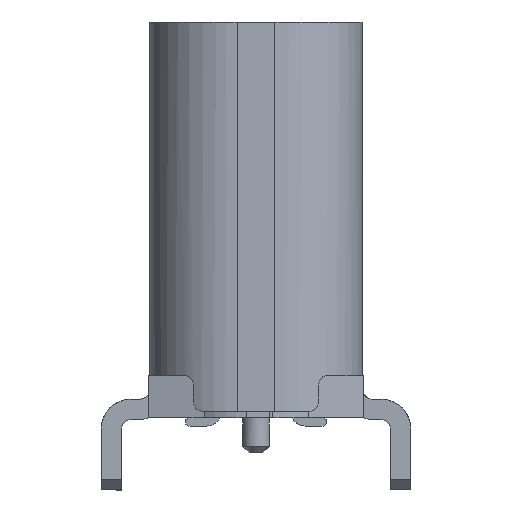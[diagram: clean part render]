
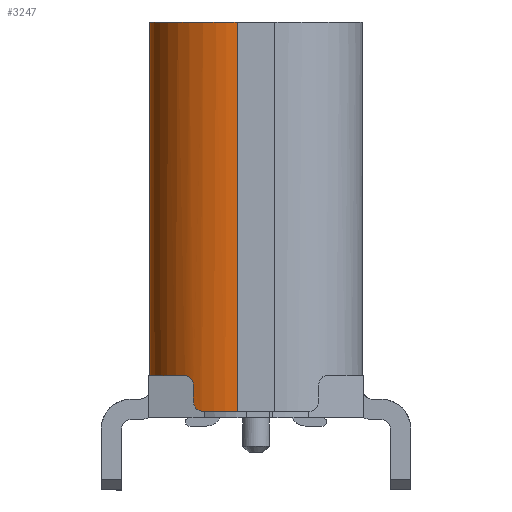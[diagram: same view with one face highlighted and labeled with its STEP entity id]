
A CAD part, left-side view. The second image highlights one B-rep face of the part: STEP entity #3247.
In plain terms, the highlighted cylindrical face has radius 1.3 mm (diameter 2.6 mm), a partial arc.
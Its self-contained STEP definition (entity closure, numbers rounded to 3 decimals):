
#221 = CARTESIAN_POINT ( 'NONE',  ( -98.817, -10.848, -1.001 ) ) ;
#636 = CARTESIAN_POINT ( 'NONE',  ( -98.991, -11.498, -11.903 ) ) ;
#647 = CARTESIAN_POINT ( 'NONE',  ( -97.691, -10.198, -0.621 ) ) ;
#998 = CARTESIAN_POINT ( 'NONE',  ( -98.885, -10.982, -1.151 ) ) ;
#1045 = FACE_OUTER_BOUND ( 'NONE', #14088, .T. ) ;
#1053 = VERTEX_POINT ( 'NONE', #24710 ) ;
#1527 = VERTEX_POINT ( 'NONE', #28893 ) ;
#3247 = ADVANCED_FACE ( 'NONE', ( #1045 ), #33800, .T. ) ;
#3356 = EDGE_CURVE ( 'NONE', #1053, #33666, #11077, .T. ) ;
#3518 = CARTESIAN_POINT ( 'NONE',  ( -97.911, -10.198, -0.621 ) ) ;
#3638 = B_SPLINE_CURVE_WITH_KNOTS ( 'NONE', 3,
 ( #23109, #7354, #25779, #26488, #9511, #12368, #18414, #12709, #18065, #34708, #7166, #17895, #25958, #4473, #15393, #12211, #34535, #3941, #28653, #15050, #9693 ),
 .UNSPECIFIED., .F., .F.,
 ( 4, 1, 1, 2, 2, 1, 2, 2, 1, 1, 2, 2, 4 ),
 ( 0., 0.125, 0.187, 0.219, 0.25, 0.375, 0.437, 0.5, 0.625, 0.687, 0.719, 0.75, 1. ),
 .UNSPECIFIED. ) ;
#3717 = ORIENTED_EDGE ( 'NONE', *, *, #3356, .T. ) ;
#3941 = CARTESIAN_POINT ( 'NONE',  ( -98.892, -11., 4.629 ) ) ;
#4230 = ORIENTED_EDGE ( 'NONE', *, *, #29581, .T. ) ;
#4473 = CARTESIAN_POINT ( 'NONE',  ( -98.756, -10.743, 4.629 ) ) ;
#4565 = CARTESIAN_POINT ( 'NONE',  ( -98.817, -10.848, -0.771 ) ) ;
#5216 = VECTOR ( 'NONE', #20714, 1000. ) ;
#6417 = VERTEX_POINT ( 'NONE', #32484 ) ;
#6953 = LINE ( 'NONE', #17849, #5216 ) ;
#7166 = CARTESIAN_POINT ( 'NONE',  ( -98.545, -10.517, 4.629 ) ) ;
#7354 = CARTESIAN_POINT ( 'NONE',  ( -97.773, -10.198, 4.629 ) ) ;
#7547 = B_SPLINE_CURVE_WITH_KNOTS ( 'NONE', 3,
 ( #31724, #17781, #9926, #28704 ),
 .UNSPECIFIED., .F., .F.,
 ( 4, 4 ),
 ( 0., 1. ),
 .UNSPECIFIED. ) ;
#7693 = ORIENTED_EDGE ( 'NONE', *, *, #17856, .T. ) ;
#8486 = EDGE_CURVE ( 'NONE', #6417, #26614, #3638, .T. ) ;
#8775 = EDGE_CURVE ( 'NONE', #14503, #26614, #30700, .T. ) ;
#8837 = AXIS2_PLACEMENT_3D ( 'NONE', #15700, #13030, #24306 ) ;
#9511 = CARTESIAN_POINT ( 'NONE',  ( -98.092, -10.261, 4.629 ) ) ;
#9693 = CARTESIAN_POINT ( 'NONE',  ( -98.991, -11.498, 4.629 ) ) ;
#9841 = EDGE_CURVE ( 'NONE', #1053, #6417, #10261, .T. ) ;
#9926 = CARTESIAN_POINT ( 'NONE',  ( -98.991, -11.321, -1.151 ) ) ;
#10261 = LINE ( 'NONE', #21154, #20121 ) ;
#10559 = B_SPLINE_CURVE_WITH_KNOTS ( 'NONE', 3,
 ( #33066, #33418, #32735, #14279 ),
 .UNSPECIFIED., .F., .F.,
 ( 4, 4 ),
 ( 0., 1. ),
 .UNSPECIFIED. ) ;
#10943 = B_SPLINE_CURVE_WITH_KNOTS ( 'NONE', 3,
 ( #33472, #11667, #32942, #14338, #19678, #33119 ),
 .UNSPECIFIED., .F., .F.,
 ( 4, 2, 4 ),
 ( 0., 0.5, 1. ),
 .UNSPECIFIED. ) ;
#11077 = B_SPLINE_CURVE_WITH_KNOTS ( 'NONE', 3,
 ( #647, #3518, #32867, #19244 ),
 .UNSPECIFIED., .F., .F.,
 ( 4, 4 ),
 ( 0., 1. ),
 .UNSPECIFIED. ) ;
#11667 = CARTESIAN_POINT ( 'NONE',  ( -98.759, -10.756, -0.621 ) ) ;
#11727 = ORIENTED_EDGE ( 'NONE', *, *, #27663, .T. ) ;
#11969 = VECTOR ( 'NONE', #33383, 1000. ) ;
#12042 = ORIENTED_EDGE ( 'NONE', *, *, #8486, .F. ) ;
#12211 = CARTESIAN_POINT ( 'NONE',  ( -98.864, -10.937, 4.629 ) ) ;
#12298 = CARTESIAN_POINT ( 'NONE',  ( -98.868, -10.944, -1.151 ) ) ;
#12368 = CARTESIAN_POINT ( 'NONE',  ( -98.131, -10.275, 4.629 ) ) ;
#12709 = CARTESIAN_POINT ( 'NONE',  ( -98.252, -10.322, 4.629 ) ) ;
#12785 = CARTESIAN_POINT ( 'NONE',  ( -98.991, -11.498, 4.629 ) ) ;
#13030 = DIRECTION ( 'NONE',  ( 0., 0., -1. ) ) ;
#14036 = ORIENTED_EDGE ( 'NONE', *, *, #19209, .T. ) ;
#14088 = EDGE_LOOP ( 'NONE', ( #12042, #18482, #3717, #4230, #24971, #11727, #7693, #14036, #33563 ) ) ;
#14279 = CARTESIAN_POINT ( 'NONE',  ( -98.735, -10.722, -0.621 ) ) ;
#14338 = CARTESIAN_POINT ( 'NONE',  ( -98.81, -10.835, -0.694 ) ) ;
#14503 = VERTEX_POINT ( 'NONE', #22683 ) ;
#14676 = B_SPLINE_CURVE_WITH_KNOTS ( 'NONE', 3,
 ( #23039, #23204, #14781, #22858, #12298, #31424 ),
 .UNSPECIFIED., .F., .F.,
 ( 4, 2, 4 ),
 ( 0., 0.5, 1. ),
 .UNSPECIFIED. ) ;
#14781 = CARTESIAN_POINT ( 'NONE',  ( -98.825, -10.861, -1.078 ) ) ;
#15050 = CARTESIAN_POINT ( 'NONE',  ( -98.991, -11.331, 4.629 ) ) ;
#15393 = CARTESIAN_POINT ( 'NONE',  ( -98.835, -10.876, 4.629 ) ) ;
#15700 = CARTESIAN_POINT ( 'NONE',  ( -97.691, -11.498, -11.903 ) ) ;
#16235 = VERTEX_POINT ( 'NONE', #221 ) ;
#17646 = CARTESIAN_POINT ( 'NONE',  ( -98.323, -10.362, -0.621 ) ) ;
#17781 = CARTESIAN_POINT ( 'NONE',  ( -98.955, -11.145, -1.151 ) ) ;
#17849 = CARTESIAN_POINT ( 'NONE',  ( -98.817, -10.848, -11.903 ) ) ;
#17856 = EDGE_CURVE ( 'NONE', #16235, #24031, #14676, .T. ) ;
#17895 = CARTESIAN_POINT ( 'NONE',  ( -98.579, -10.548, 4.629 ) ) ;
#18065 = CARTESIAN_POINT ( 'NONE',  ( -98.369, -10.382, 4.629 ) ) ;
#18414 = CARTESIAN_POINT ( 'NONE',  ( -98.149, -10.281, 4.629 ) ) ;
#18482 = ORIENTED_EDGE ( 'NONE', *, *, #9841, .F. ) ;
#19209 = EDGE_CURVE ( 'NONE', #24031, #14503, #7547, .T. ) ;
#19244 = CARTESIAN_POINT ( 'NONE',  ( -98.323, -10.362, -0.621 ) ) ;
#19678 = CARTESIAN_POINT ( 'NONE',  ( -98.817, -10.848, -0.729 ) ) ;
#20121 = VECTOR ( 'NONE', #29022, 1000. ) ;
#20714 = DIRECTION ( 'NONE',  ( 0., 0., -1. ) ) ;
#21154 = CARTESIAN_POINT ( 'NONE',  ( -97.691, -10.198, 1.304 ) ) ;
#22683 = CARTESIAN_POINT ( 'NONE',  ( -98.991, -11.498, -1.151 ) ) ;
#22858 = CARTESIAN_POINT ( 'NONE',  ( -98.852, -10.912, -1.137 ) ) ;
#23039 = CARTESIAN_POINT ( 'NONE',  ( -98.817, -10.848, -1.001 ) ) ;
#23109 = CARTESIAN_POINT ( 'NONE',  ( -97.691, -10.198, 4.629 ) ) ;
#23204 = CARTESIAN_POINT ( 'NONE',  ( -98.817, -10.848, -1.043 ) ) ;
#24031 = VERTEX_POINT ( 'NONE', #998 ) ;
#24306 = DIRECTION ( 'NONE',  ( 0., 1., 0. ) ) ;
#24710 = CARTESIAN_POINT ( 'NONE',  ( -97.691, -10.198, -0.621 ) ) ;
#24971 = ORIENTED_EDGE ( 'NONE', *, *, #30102, .T. ) ;
#25779 = CARTESIAN_POINT ( 'NONE',  ( -97.895, -10.209, 4.629 ) ) ;
#25958 = CARTESIAN_POINT ( 'NONE',  ( -98.673, -10.641, 4.629 ) ) ;
#26488 = CARTESIAN_POINT ( 'NONE',  ( -98.033, -10.243, 4.629 ) ) ;
#26614 = VERTEX_POINT ( 'NONE', #12785 ) ;
#27663 = EDGE_CURVE ( 'NONE', #34968, #16235, #6953, .T. ) ;
#28653 = CARTESIAN_POINT ( 'NONE',  ( -98.961, -11.172, 4.629 ) ) ;
#28704 = CARTESIAN_POINT ( 'NONE',  ( -98.991, -11.498, -1.151 ) ) ;
#28893 = CARTESIAN_POINT ( 'NONE',  ( -98.735, -10.722, -0.621 ) ) ;
#29022 = DIRECTION ( 'NONE',  ( 0., 0., 1. ) ) ;
#29581 = EDGE_CURVE ( 'NONE', #33666, #1527, #10559, .T. ) ;
#30102 = EDGE_CURVE ( 'NONE', #1527, #34968, #10943, .T. ) ;
#30700 = LINE ( 'NONE', #636, #11969 ) ;
#31424 = CARTESIAN_POINT ( 'NONE',  ( -98.885, -10.982, -1.151 ) ) ;
#31724 = CARTESIAN_POINT ( 'NONE',  ( -98.885, -10.982, -1.151 ) ) ;
#32484 = CARTESIAN_POINT ( 'NONE',  ( -97.691, -10.198, 4.629 ) ) ;
#32735 = CARTESIAN_POINT ( 'NONE',  ( -98.625, -10.575, -0.621 ) ) ;
#32867 = CARTESIAN_POINT ( 'NONE',  ( -98.131, -10.255, -0.621 ) ) ;
#32942 = CARTESIAN_POINT ( 'NONE',  ( -98.779, -10.785, -0.636 ) ) ;
#33066 = CARTESIAN_POINT ( 'NONE',  ( -98.323, -10.362, -0.621 ) ) ;
#33119 = CARTESIAN_POINT ( 'NONE',  ( -98.817, -10.848, -0.771 ) ) ;
#33383 = DIRECTION ( 'NONE',  ( 0., 0., 1. ) ) ;
#33418 = CARTESIAN_POINT ( 'NONE',  ( -98.484, -10.451, -0.621 ) ) ;
#33472 = CARTESIAN_POINT ( 'NONE',  ( -98.735, -10.722, -0.621 ) ) ;
#33563 = ORIENTED_EDGE ( 'NONE', *, *, #8775, .T. ) ;
#33666 = VERTEX_POINT ( 'NONE', #17646 ) ;
#33800 = CYLINDRICAL_SURFACE ( 'NONE', #8837, 1.3 ) ;
#34535 = CARTESIAN_POINT ( 'NONE',  ( -98.883, -10.978, 4.629 ) ) ;
#34708 = CARTESIAN_POINT ( 'NONE',  ( -98.476, -10.461, 4.629 ) ) ;
#34968 = VERTEX_POINT ( 'NONE', #4565 ) ;
